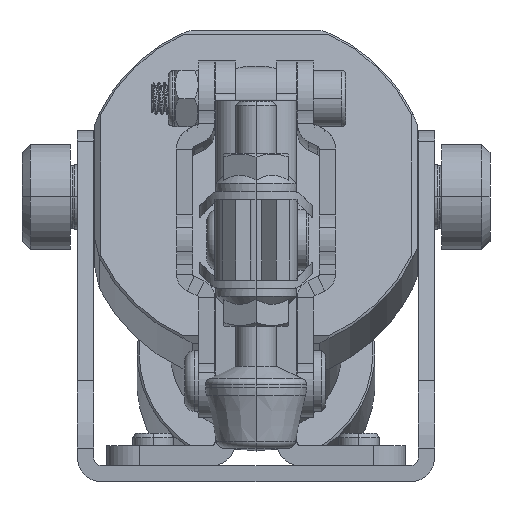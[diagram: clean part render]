
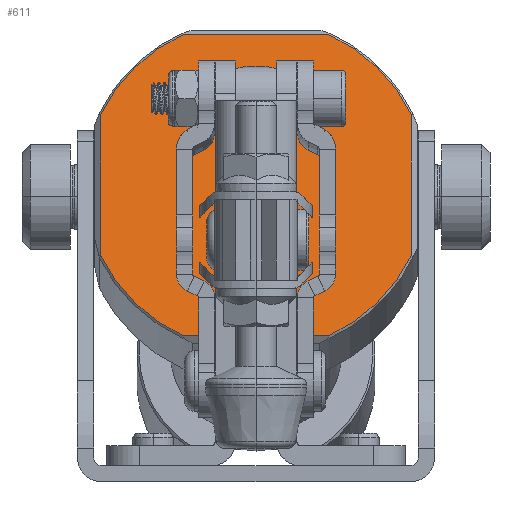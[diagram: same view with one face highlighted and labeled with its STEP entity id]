
A CAD part, left-side view. The second image highlights one B-rep face of the part: STEP entity #611.
In plain terms, the highlighted planar face has unit normal (-0.97, 0, 0.244).
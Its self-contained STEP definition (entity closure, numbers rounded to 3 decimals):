
#611=ADVANCED_FACE('',(#1654,#1655),#1656,.F.);
#1654=FACE_BOUND('',#3435,.T.);
#1655=FACE_OUTER_BOUND('',#3436,.T.);
#1656=PLANE('',#3437);
#3435=EDGE_LOOP('',(#6687,#6688));
#3436=EDGE_LOOP('',(#6689,#6690,#6691,#6692,#6693,#6694,#6695,#6696));
#3437=AXIS2_PLACEMENT_3D('',#6697,#6698,#6699);
#6687=ORIENTED_EDGE('',*,*,#13166,.T.);
#6688=ORIENTED_EDGE('',*,*,#13278,.T.);
#6689=ORIENTED_EDGE('',*,*,#13279,.T.);
#6690=ORIENTED_EDGE('',*,*,#13280,.T.);
#6691=ORIENTED_EDGE('',*,*,#13281,.T.);
#6692=ORIENTED_EDGE('',*,*,#13282,.T.);
#6693=ORIENTED_EDGE('',*,*,#13283,.T.);
#6694=ORIENTED_EDGE('',*,*,#13284,.T.);
#6695=ORIENTED_EDGE('',*,*,#13285,.T.);
#6696=ORIENTED_EDGE('',*,*,#13286,.T.);
#6697=CARTESIAN_POINT('',(33.449,0.0,36.777));
#6698=DIRECTION('',(0.97,0.,-0.244));
#6699=DIRECTION('',(0.,-1.0,0.));
#13166=EDGE_CURVE('',#19286,#19290,#19292,.T.);
#13278=EDGE_CURVE('',#19290,#19286,#19474,.T.);
#13279=EDGE_CURVE('',#19475,#19476,#19477,.T.);
#13280=EDGE_CURVE('',#19476,#19478,#19479,.T.);
#13281=EDGE_CURVE('',#19478,#19480,#19481,.T.);
#13282=EDGE_CURVE('',#19480,#19482,#19483,.T.);
#13283=EDGE_CURVE('',#19482,#19484,#19485,.T.);
#13284=EDGE_CURVE('',#19484,#19486,#19487,.T.);
#13285=EDGE_CURVE('',#19486,#19488,#19489,.T.);
#13286=EDGE_CURVE('',#19488,#19475,#19490,.T.);
#19286=VERTEX_POINT('',#28848);
#19290=VERTEX_POINT('',#28853);
#19292=CIRCLE('',#28856,4.0);
#19474=CIRCLE('',#29157,4.0);
#19475=VERTEX_POINT('',#29158);
#19476=VERTEX_POINT('',#29159);
#19477=LINE('',#29160,#29161);
#19478=VERTEX_POINT('',#29162);
#19479=CIRCLE('',#29163,21.25);
#19480=VERTEX_POINT('',#29164);
#19481=LINE('',#29165,#29166);
#19482=VERTEX_POINT('',#29167);
#19483=CIRCLE('',#29168,21.25);
#19484=VERTEX_POINT('',#29169);
#19485=LINE('',#29170,#29171);
#19486=VERTEX_POINT('',#29172);
#19487=CIRCLE('',#29173,21.25);
#19488=VERTEX_POINT('',#29174);
#19489=LINE('',#29175,#29176);
#19490=CIRCLE('',#29177,21.25);
#28848=CARTESIAN_POINT('',(32.474,0.0,32.897));
#28853=CARTESIAN_POINT('',(34.423,0.,40.656));
#28856=AXIS2_PLACEMENT_3D('',#36882,#36883,#36884);
#29157=AXIS2_PLACEMENT_3D('',#37049,#37050,#37051);
#29158=CARTESIAN_POINT('',(31.256,-19.25,28.048));
#29159=CARTESIAN_POINT('',(35.641,-19.25,45.505));
#29160=CARTESIAN_POINT('',(33.449,-19.25,36.777));
#29161=VECTOR('',#37052,1.0);
#29162=CARTESIAN_POINT('',(38.138,-9.,55.447));
#29163=AXIS2_PLACEMENT_3D('',#37053,#37054,#37055);
#29164=CARTESIAN_POINT('',(38.138,9.,55.447));
#29165=CARTESIAN_POINT('',(38.138,0.0,55.447));
#29166=VECTOR('',#37056,1.0);
#29167=CARTESIAN_POINT('',(35.641,19.25,45.505));
#29168=AXIS2_PLACEMENT_3D('',#37057,#37058,#37059);
#29169=CARTESIAN_POINT('',(31.256,19.25,28.048));
#29170=CARTESIAN_POINT('',(33.449,19.25,36.777));
#29171=VECTOR('',#37060,1.0);
#29172=CARTESIAN_POINT('',(28.76,9.,18.106));
#29173=AXIS2_PLACEMENT_3D('',#37061,#37062,#37063);
#29174=CARTESIAN_POINT('',(28.76,-9.,18.106));
#29175=CARTESIAN_POINT('',(28.76,0.0,18.106));
#29176=VECTOR('',#37064,1.0);
#29177=AXIS2_PLACEMENT_3D('',#37065,#37066,#37067);
#36882=CARTESIAN_POINT('',(33.449,0.0,36.777));
#36883=DIRECTION('',(0.97,0.,-0.244));
#36884=DIRECTION('',(-0.244,0.0,-0.97));
#37049=CARTESIAN_POINT('',(33.449,0.0,36.777));
#37050=DIRECTION('',(0.97,0.,-0.244));
#37051=DIRECTION('',(-0.244,0.0,-0.97));
#37052=DIRECTION('',(0.244,0.,0.97));
#37053=CARTESIAN_POINT('',(33.449,0.0,36.777));
#37054=DIRECTION('',(-0.97,0.,0.244));
#37055=DIRECTION('',(-0.244,0.,-0.97));
#37056=DIRECTION('',(0.,1.0,0.));
#37057=CARTESIAN_POINT('',(33.449,0.0,36.777));
#37058=DIRECTION('',(-0.97,0.,0.244));
#37059=DIRECTION('',(-0.244,0.,-0.97));
#37060=DIRECTION('',(-0.244,0.,-0.97));
#37061=CARTESIAN_POINT('',(33.449,0.0,36.777));
#37062=DIRECTION('',(-0.97,0.,0.244));
#37063=DIRECTION('',(-0.244,0.,-0.97));
#37064=DIRECTION('',(0.,-1.0,0.));
#37065=CARTESIAN_POINT('',(33.449,0.0,36.777));
#37066=DIRECTION('',(-0.97,0.,0.244));
#37067=DIRECTION('',(-0.244,0.0,-0.97));
